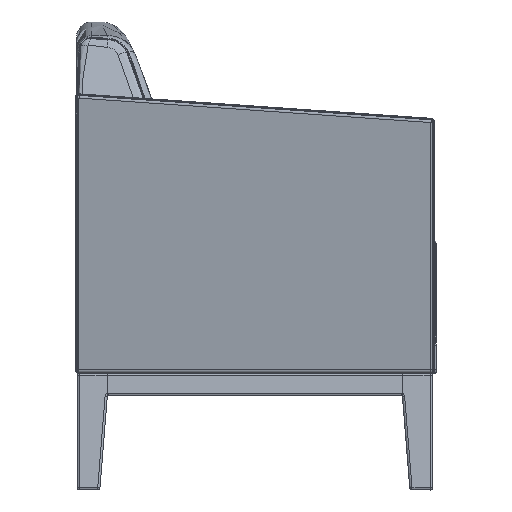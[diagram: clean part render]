
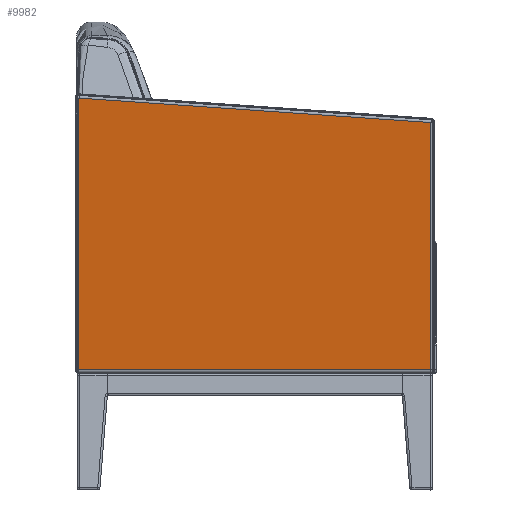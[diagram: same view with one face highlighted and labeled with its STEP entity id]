
A CAD part, left-side view. The second image highlights one B-rep face of the part: STEP entity #9982.
In plain terms, the highlighted planar face has unit normal (-0.993, 0, -0.119).
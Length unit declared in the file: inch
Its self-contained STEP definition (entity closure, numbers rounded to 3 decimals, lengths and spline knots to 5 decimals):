
#244=PLANE('',#10818);
#432=LINE('',#18240,#866);
#447=LINE('',#18450,#881);
#454=LINE('',#18481,#888);
#456=LINE('',#18485,#890);
#866=VECTOR('',#12036,0.3937);
#881=VECTOR('',#12163,0.3937);
#888=VECTOR('',#12190,0.3937);
#890=VECTOR('',#12196,0.3937);
#1587=FACE_OUTER_BOUND('',#2306,.T.);
#2306=EDGE_LOOP('',(#7091,#7092,#7093,#7094));
#4116=VERTEX_POINT('',#18224);
#4120=VERTEX_POINT('',#18238);
#4160=VERTEX_POINT('',#18445);
#4161=VERTEX_POINT('',#18449);
#5137=EDGE_CURVE('',#4116,#4120,#432,.T.);
#5197=EDGE_CURVE('',#4161,#4160,#447,.T.);
#5211=EDGE_CURVE('',#4160,#4116,#454,.T.);
#5213=EDGE_CURVE('',#4120,#4161,#456,.T.);
#7091=ORIENTED_EDGE('',*,*,#5211,.T.);
#7092=ORIENTED_EDGE('',*,*,#5137,.T.);
#7093=ORIENTED_EDGE('',*,*,#5213,.T.);
#7094=ORIENTED_EDGE('',*,*,#5197,.T.);
#9982=ADVANCED_FACE('',(#1587),#244,.F.);
#10818=AXIS2_PLACEMENT_3D('',#18484,#12194,#12195);
#12036=DIRECTION('',(0.,-1.,0.));
#12163=DIRECTION('',(-0.008,0.998,0.069));
#12190=DIRECTION('',(0.119,0.,-0.993));
#12194=DIRECTION('center_axis',(0.993,0.,
0.119));
#12195=DIRECTION('ref_axis',(0.119,0.,-0.993));
#12196=DIRECTION('',(-0.119,0.,0.993));
#18224=CARTESIAN_POINT('',(50.01466,47.57689,7.70346));
#18238=CARTESIAN_POINT('',(50.01466,24.18989,7.70346));
#18240=CARTESIAN_POINT('',(50.01466,47.82689,7.70346));
#18445=CARTESIAN_POINT('',(47.85189,47.57689,25.76555));
#18449=CARTESIAN_POINT('',(48.04668,24.18989,24.13882));
#18450=CARTESIAN_POINT('',(47.85508,47.19432,25.73894));
#18481=CARTESIAN_POINT('',(49.49551,47.57689,12.03906));
#18484=CARTESIAN_POINT('Origin',(50.04103,47.82689,7.48319));
#18485=CARTESIAN_POINT('',(49.54525,24.18989,11.62368));
